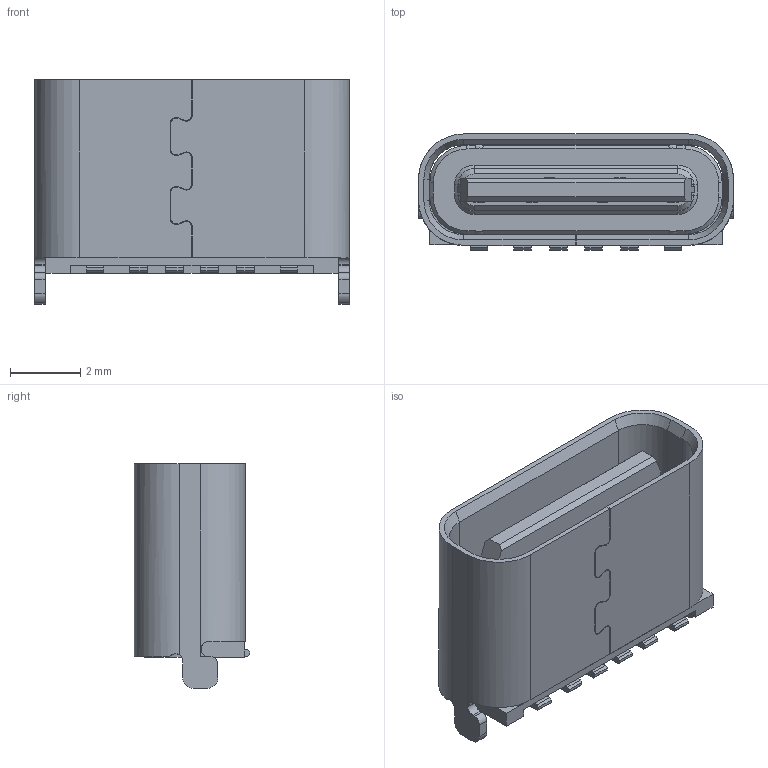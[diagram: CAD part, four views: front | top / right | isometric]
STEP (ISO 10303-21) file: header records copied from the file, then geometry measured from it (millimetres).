
FILE_DESCRIPTION((''),'2;1');
FILE_NAME('TYPE-C6PIN_5_1_','2022-07-27T',('888'),(''),'PRO/ENGINEER BY PARAMETRIC TECHNOLOGY CORPORATION, 2010480','PRO/ENGINEER BY PARAMETRIC TECHNOLOGY CORPORATION, 2010480','');
FILE_SCHEMA(('AUTOMOTIVE_DESIGN_CC2 { 1 2 10303 214 -1 1 5 2 }'));
Length unit declared in the file: millimetre
Products named in the file (1): TYPE-C6PIN_5_1_
Bounding box: 8.94 x 3.29 x 6.38 mm (x, y, z)
Volume: 71.3 mm3; surface area: 390.2 mm2
Topology: 1 solids, 7 shells, 596 faces, 1615 edges, 1062 vertices
Faces by surface type: plane 486, cylinder 90, cone 20
Entity records: 18972 total; most frequent: CARTESIAN_POINT 3452, ORIENTED_EDGE 3230, DIRECTION 2985, EDGE_CURVE 1615, VECTOR 1369, LINE 1369, VERTEX_POINT 1062, AXIS2_PLACEMENT_3D 808
